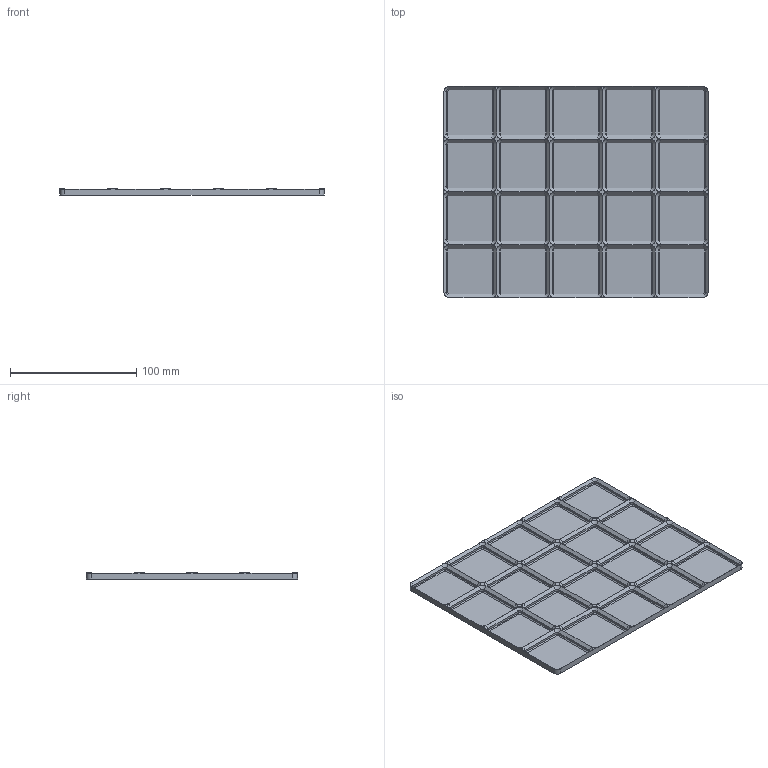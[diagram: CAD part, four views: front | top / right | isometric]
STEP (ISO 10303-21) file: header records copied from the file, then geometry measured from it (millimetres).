
FILE_DESCRIPTION(('Open CASCADE Model'),'2;1');
FILE_NAME('Open CASCADE Shape Model','2026-11-03T16:21:33',('Author'),( 'Open CASCADE'),'Open CASCADE STEP processor 8.0','build123d', 'Unknown');
FILE_SCHEMA(('AUTOMOTIVE_DESIGN { 1 0 10303 214 1 1 1 1 }'));
Length unit declared in the file: millimetre
Products named in the file (1): COMPOUND
Bounding box: 209.5 x 167.5 x 5 mm (x, y, z)
Volume: 29349 mm3; surface area: 82652.5 mm2
Topology: 1 solids, 1 shells, 611 faces, 1313 edges, 704 vertices
Faces by surface type: plane 291, cylinder 160, cone 160
Entity records: 31340 total; most frequent: CARTESIAN_POINT 7169, DIRECTION 3817, ORIENTED_EDGE 2626, PCURVE 2626, DEFINITIONAL_REPRESENTATION 2626, B_SPLINE_CURVE_WITH_KNOTS 1746, LINE 1577, VECTOR 1577
